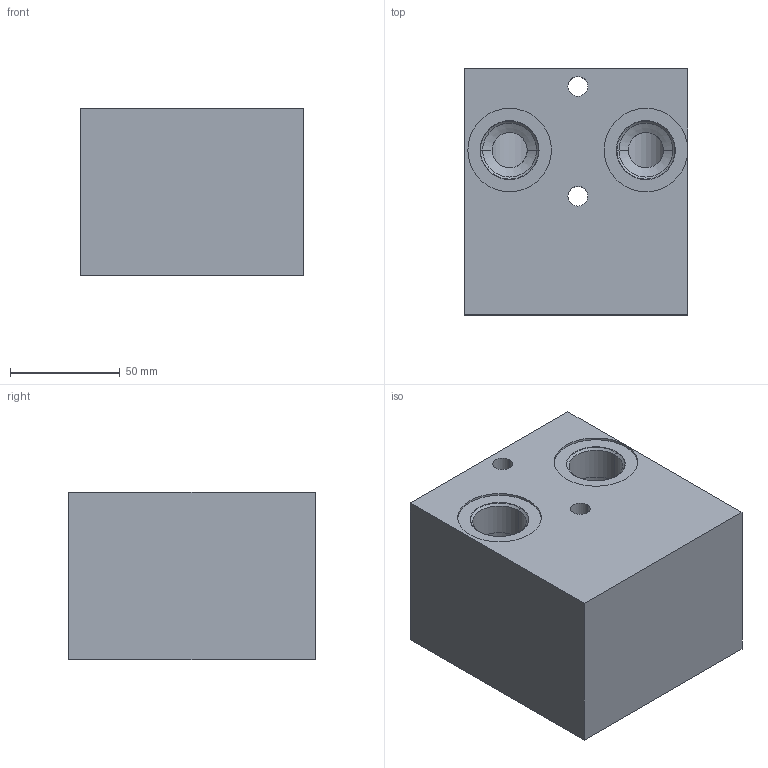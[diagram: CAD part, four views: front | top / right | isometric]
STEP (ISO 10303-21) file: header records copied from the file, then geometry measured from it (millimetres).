
FILE_DESCRIPTION((''),'2;1');
FILE_NAME('24296200','2023-10-12T',('l.soukupova'),(''),'PRO/ENGINEER BY PARAMETRIC TECHNOLOGY CORPORATION, 2015440','PRO/ENGINEER BY PARAMETRIC TECHNOLOGY CORPORATION, 2015440','');
FILE_SCHEMA(('AUTOMOTIVE_DESIGN { 1 0 10303 214 1 1 1 1 }'));
Length unit declared in the file: millimetre
Products named in the file (1): 24296200
Bounding box: 101.6 x 112 x 76.2 mm (x, y, z)
Volume: 678520.8 mm3; surface area: 91128.6 mm2
Topology: 1 solids, 7 shells, 132 faces, 461 edges, 384 vertices
Faces by surface type: cylinder 68, cone 46, plane 18
Entity records: 6299 total; most frequent: CARTESIAN_POINT 1740, DIRECTION 865, ORIENTED_EDGE 584, EDGE_CURVE 304, AXIS2_PLACEMENT_3D 297, VECTOR 271, LINE 271, VERTEX_POINT 186
